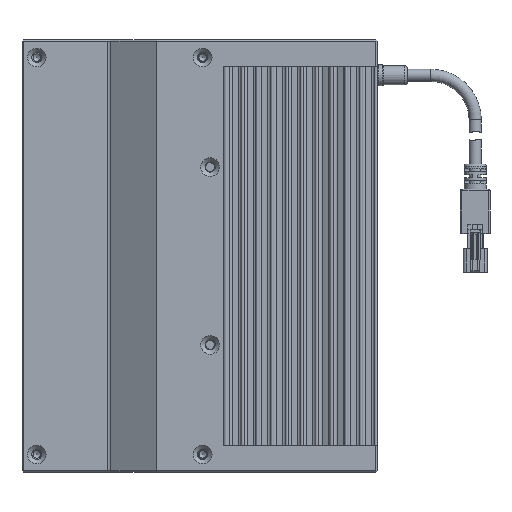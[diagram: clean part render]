
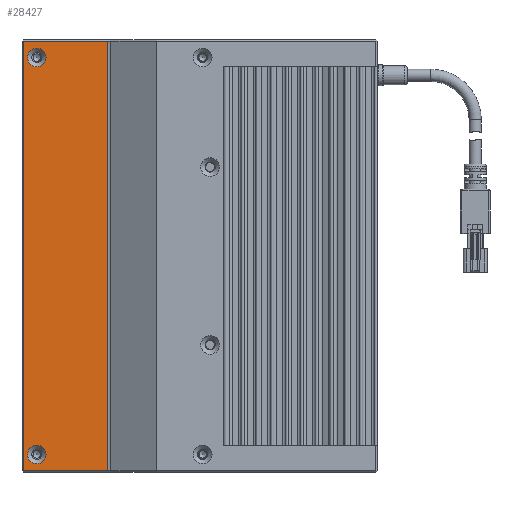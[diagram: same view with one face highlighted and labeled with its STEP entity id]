
A CAD part, left-side view. The second image highlights one B-rep face of the part: STEP entity #28427.
In plain terms, the highlighted planar face has unit normal (-1, 0, 0).
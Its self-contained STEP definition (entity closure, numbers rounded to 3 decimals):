
#440 = EDGE_CURVE ( 'NONE', #25313, #25313, #30162, .T. ) ;
#787 = AXIS2_PLACEMENT_3D ( 'NONE', #20464, #5661, #5332 ) ;
#1135 = VECTOR ( 'NONE', #20694, 1000. ) ;
#2882 = CARTESIAN_POINT ( 'NONE',  ( -15.462, 21.439, 120. ) ) ;
#3212 = VERTEX_POINT ( 'NONE', #2882 ) ;
#5314 = CARTESIAN_POINT ( 'NONE',  ( -15.462, 21.439, 265. ) ) ;
#5332 = DIRECTION ( 'NONE',  ( 0., 0., 1. ) ) ;
#5661 = DIRECTION ( 'NONE',  ( -1., 0., 0. ) ) ;
#6150 = EDGE_CURVE ( 'NONE', #20838, #20607, #27826, .T. ) ;
#7750 = DIRECTION ( 'NONE',  ( 0., 0., -1. ) ) ;
#7758 = LINE ( 'NONE', #23133, #14244 ) ;
#9305 = VECTOR ( 'NONE', #29690, 1000. ) ;
#10028 = CARTESIAN_POINT ( 'NONE',  ( -15.462, 16.939, 259.5 ) ) ;
#11242 = EDGE_LOOP ( 'NONE', ( #14245 ) ) ;
#11437 = LINE ( 'NONE', #17270, #28802 ) ;
#11496 = CIRCLE ( 'NONE', #787, 3.15 ) ;
#12269 = FACE_BOUND ( 'NONE', #17260, .T. ) ;
#12864 = DIRECTION ( 'NONE',  ( 0., 0., 1. ) ) ;
#13692 = ORIENTED_EDGE ( 'NONE', *, *, #6150, .T. ) ;
#14244 = VECTOR ( 'NONE', #12864, 1000. ) ;
#14245 = ORIENTED_EDGE ( 'NONE', *, *, #28027, .F. ) ;
#14643 = CARTESIAN_POINT ( 'NONE',  ( -15.462, -6.987, 265. ) ) ;
#17260 = EDGE_LOOP ( 'NONE', ( #19354 ) ) ;
#17270 = CARTESIAN_POINT ( 'NONE',  ( -15.462, -7.561, 120. ) ) ;
#17890 = EDGE_CURVE ( 'NONE', #3212, #20607, #7758, .T. ) ;
#18049 = CARTESIAN_POINT ( 'NONE',  ( -15.462, -7.561, 263.5 ) ) ;
#18878 = ORIENTED_EDGE ( 'NONE', *, *, #20848, .F. ) ;
#19279 = EDGE_CURVE ( 'NONE', #20838, #23313, #20215, .T. ) ;
#19354 = ORIENTED_EDGE ( 'NONE', *, *, #440, .F. ) ;
#20215 = LINE ( 'NONE', #27280, #9305 ) ;
#20391 = ORIENTED_EDGE ( 'NONE', *, *, #17890, .F. ) ;
#20464 = CARTESIAN_POINT ( 'NONE',  ( -15.462, 16.939, 125.5 ) ) ;
#20471 = VERTEX_POINT ( 'NONE', #26626 ) ;
#20522 = DIRECTION ( 'NONE',  ( -1., 0., 0. ) ) ;
#20607 = VERTEX_POINT ( 'NONE', #5314 ) ;
#20639 = DIRECTION ( 'NONE',  ( 1., 0., 0. ) ) ;
#20694 = DIRECTION ( 'NONE',  ( 0., 1., 0. ) ) ;
#20838 = VERTEX_POINT ( 'NONE', #14643 ) ;
#20848 = EDGE_CURVE ( 'NONE', #23313, #3212, #11437, .T. ) ;
#22723 = CARTESIAN_POINT ( 'NONE',  ( -15.462, -7.561, 265. ) ) ;
#23133 = CARTESIAN_POINT ( 'NONE',  ( -15.462, 21.439, 263.5 ) ) ;
#23313 = VERTEX_POINT ( 'NONE', #23763 ) ;
#23343 = AXIS2_PLACEMENT_3D ( 'NONE', #18049, #20639, #7750 ) ;
#23494 = CARTESIAN_POINT ( 'NONE',  ( -15.462, 16.939, 262.65 ) ) ;
#23763 = CARTESIAN_POINT ( 'NONE',  ( -15.462, -6.987, 120. ) ) ;
#24375 = FACE_OUTER_BOUND ( 'NONE', #29033, .T. ) ;
#25313 = VERTEX_POINT ( 'NONE', #23494 ) ;
#26626 = CARTESIAN_POINT ( 'NONE',  ( -15.462, 16.939, 128.65 ) ) ;
#27280 = CARTESIAN_POINT ( 'NONE',  ( -15.462, -6.987, 263.5 ) ) ;
#27826 = LINE ( 'NONE', #22723, #1135 ) ;
#28027 = EDGE_CURVE ( 'NONE', #20471, #20471, #11496, .T. ) ;
#28188 = AXIS2_PLACEMENT_3D ( 'NONE', #10028, #20522, #31006 ) ;
#28427 = ADVANCED_FACE ( 'NONE', ( #28438, #12269, #24375 ), #30684, .F. ) ;
#28438 = FACE_BOUND ( 'NONE', #11242, .T. ) ;
#28802 = VECTOR ( 'NONE', #32919, 1000. ) ;
#29033 = EDGE_LOOP ( 'NONE', ( #20391, #18878, #33505, #13692 ) ) ;
#29690 = DIRECTION ( 'NONE',  ( 0., 0., -1. ) ) ;
#30162 = CIRCLE ( 'NONE', #28188, 3.15 ) ;
#30684 = PLANE ( 'NONE',  #23343 ) ;
#31006 = DIRECTION ( 'NONE',  ( 0., 0., 1. ) ) ;
#32919 = DIRECTION ( 'NONE',  ( 0., 1., 0. ) ) ;
#33505 = ORIENTED_EDGE ( 'NONE', *, *, #19279, .F. ) ;
